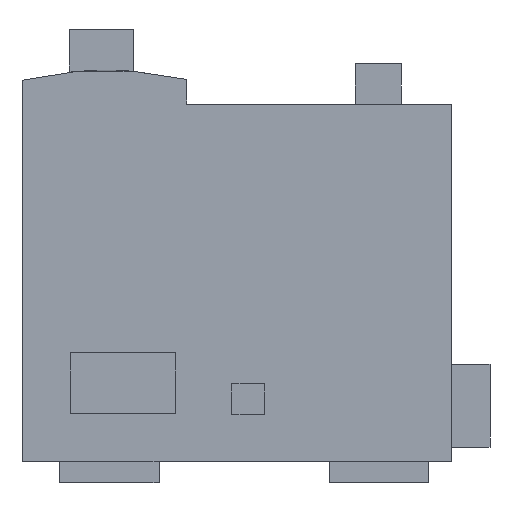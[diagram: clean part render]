
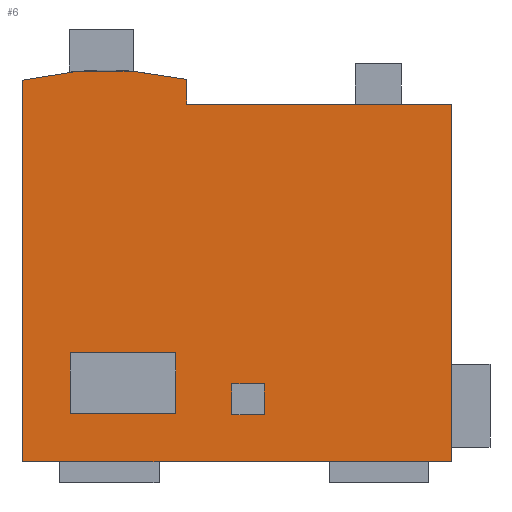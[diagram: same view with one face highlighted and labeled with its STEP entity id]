
A CAD part, front view. The second image highlights one B-rep face of the part: STEP entity #6.
In plain terms, the highlighted planar face has unit normal (0, -1, 0).
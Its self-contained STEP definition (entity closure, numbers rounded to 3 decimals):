
#6 = ADVANCED_FACE ( 'NONE', ( #666, #1373, #324 ), #817, .F. ) ;
#16 = VERTEX_POINT ( 'NONE', #1460 ) ;
#23 = DIRECTION ( 'NONE',  ( 0., 0., -1. ) ) ;
#54 = CARTESIAN_POINT ( 'NONE',  ( 0., 0., 0. ) ) ;
#63 = EDGE_CURVE ( 'NONE', #569, #1404, #1631, .T. ) ;
#75 = DIRECTION ( 'NONE',  ( 1., 0., 0. ) ) ;
#89 = DIRECTION ( 'NONE',  ( 0., 0., 1. ) ) ;
#95 = VERTEX_POINT ( 'NONE', #440 ) ;
#121 = EDGE_CURVE ( 'NONE', #1231, #1699, #685, .T. ) ;
#125 = CARTESIAN_POINT ( 'NONE',  ( 101.6, 0., 84.5 ) ) ;
#133 = EDGE_CURVE ( 'NONE', #267, #714, #1527, .T. ) ;
#135 = ORIENTED_EDGE ( 'NONE', *, *, #335, .T. ) ;
#142 = CARTESIAN_POINT ( 'NONE',  ( 0., 0., 84.5 ) ) ;
#159 = CARTESIAN_POINT ( 'NONE',  ( 0., 0., 0. ) ) ;
#181 = DIRECTION ( 'NONE',  ( 1., 0., 0. ) ) ;
#196 = CARTESIAN_POINT ( 'NONE',  ( 0., 0., 90.145 ) ) ;
#205 = VERTEX_POINT ( 'NONE', #241 ) ;
#210 = DIRECTION ( 'NONE',  ( 1., 0., 0. ) ) ;
#214 = EDGE_CURVE ( 'NONE', #1368, #612, #604, .T. ) ;
#221 = CARTESIAN_POINT ( 'NONE',  ( 0., 0., 0. ) ) ;
#239 = EDGE_LOOP ( 'NONE', ( #260, #720, #464, #1427 ) ) ;
#241 = CARTESIAN_POINT ( 'NONE',  ( 32.382, 0., 0. ) ) ;
#260 = ORIENTED_EDGE ( 'NONE', *, *, #1484, .F. ) ;
#267 = VERTEX_POINT ( 'NONE', #506 ) ;
#324 = FACE_BOUND ( 'NONE', #359, .T. ) ;
#327 = EDGE_CURVE ( 'NONE', #612, #1021, #786, .T. ) ;
#335 = EDGE_CURVE ( 'NONE', #1368, #770, #853, .T. ) ;
#359 = EDGE_LOOP ( 'NONE', ( #1391, #1258, #1516, #423 ) ) ;
#364 = EDGE_CURVE ( 'NONE', #880, #1693, #1463, .T. ) ;
#390 = DIRECTION ( 'NONE',  ( 0., 0., -1. ) ) ;
#423 = ORIENTED_EDGE ( 'NONE', *, *, #1464, .F. ) ;
#437 = VECTOR ( 'NONE', #1161, 1000. ) ;
#440 = CARTESIAN_POINT ( 'NONE',  ( 49.593, 0., 18.4 ) ) ;
#460 = DIRECTION ( 'NONE',  ( 0., 0., 1. ) ) ;
#464 = ORIENTED_EDGE ( 'NONE', *, *, #663, .F. ) ;
#495 = DIRECTION ( 'NONE',  ( 1., 0., 0. ) ) ;
#506 = CARTESIAN_POINT ( 'NONE',  ( 36.363, 0., 11.429 ) ) ;
#514 = VECTOR ( 'NONE', #390, 1000. ) ;
#527 = ORIENTED_EDGE ( 'NONE', *, *, #121, .T. ) ;
#532 = DIRECTION ( 'NONE',  ( 0., 0., -1. ) ) ;
#539 = EDGE_CURVE ( 'NONE', #205, #1231, #1420, .T. ) ;
#542 = DIRECTION ( 'NONE',  ( 0., 0., 1. ) ) ;
#549 = CARTESIAN_POINT ( 'NONE',  ( 57.299, 0., 11.1 ) ) ;
#558 = CARTESIAN_POINT ( 'NONE',  ( 11.393, 0., 25.704 ) ) ;
#569 = VERTEX_POINT ( 'NONE', #196 ) ;
#571 = VERTEX_POINT ( 'NONE', #1108 ) ;
#581 = CARTESIAN_POINT ( 'NONE',  ( 49.593, 0., 18.4 ) ) ;
#604 = LINE ( 'NONE', #1528, #437 ) ;
#612 = VERTEX_POINT ( 'NONE', #839 ) ;
#614 = CARTESIAN_POINT ( 'NONE',  ( 72.582, 0., 0. ) ) ;
#638 = LINE ( 'NONE', #221, #782 ) ;
#663 = EDGE_CURVE ( 'NONE', #1693, #1350, #1244, .T. ) ;
#664 = DIRECTION ( 'NONE',  ( 0., -1., 0. ) ) ;
#666 = FACE_BOUND ( 'NONE', #239, .T. ) ;
#669 = DIRECTION ( 'NONE',  ( 0., 0., -1. ) ) ;
#674 = DIRECTION ( 'NONE',  ( 1., 0., 0. ) ) ;
#685 = LINE ( 'NONE', #54, #1307 ) ;
#686 = AXIS2_PLACEMENT_3D ( 'NONE', #1218, #1212, #542 ) ;
#693 = EDGE_LOOP ( 'NONE', ( #1493, #135, #1189, #1291, #1185, #1000, #938, #527, #1615, #936 ) ) ;
#714 = VERTEX_POINT ( 'NONE', #1133 ) ;
#720 = ORIENTED_EDGE ( 'NONE', *, *, #1171, .F. ) ;
#740 = EDGE_CURVE ( 'NONE', #1404, #16, #1344, .T. ) ;
#756 = CARTESIAN_POINT ( 'NONE',  ( 38.951, 0., 84.5 ) ) ;
#758 = EDGE_CURVE ( 'NONE', #16, #205, #1544, .T. ) ;
#759 = DIRECTION ( 'NONE',  ( 1., 0., 0. ) ) ;
#760 = VECTOR ( 'NONE', #669, 1000. ) ;
#770 = VERTEX_POINT ( 'NONE', #1029 ) ;
#782 = VECTOR ( 'NONE', #759, 1000. ) ;
#786 = LINE ( 'NONE', #125, #514 ) ;
#817 = PLANE ( 'NONE',  #686 ) ;
#839 = CARTESIAN_POINT ( 'NONE',  ( 101.6, 0., 84.5 ) ) ;
#842 = VERTEX_POINT ( 'NONE', #1567 ) ;
#853 = LINE ( 'NONE', #756, #909 ) ;
#864 = CIRCLE ( 'NONE', #1008, 85. ) ;
#880 = VERTEX_POINT ( 'NONE', #1692 ) ;
#897 = CARTESIAN_POINT ( 'NONE',  ( 57.299, 0., 18.4 ) ) ;
#903 = LINE ( 'NONE', #1044, #1024 ) ;
#909 = VECTOR ( 'NONE', #1025, 1000. ) ;
#917 = CARTESIAN_POINT ( 'NONE',  ( 49.593, 0., 18.4 ) ) ;
#923 = DIRECTION ( 'NONE',  ( 1., 0., 0. ) ) ;
#933 = VECTOR ( 'NONE', #75, 1000. ) ;
#935 = VECTOR ( 'NONE', #23, 1000. ) ;
#936 = ORIENTED_EDGE ( 'NONE', *, *, #327, .F. ) ;
#938 = ORIENTED_EDGE ( 'NONE', *, *, #539, .T. ) ;
#951 = LINE ( 'NONE', #581, #1647 ) ;
#965 = EDGE_CURVE ( 'NONE', #714, #571, #1094, .T. ) ;
#988 = CARTESIAN_POINT ( 'NONE',  ( 0., 0., 0. ) ) ;
#996 = VECTOR ( 'NONE', #460, 1000. ) ;
#1000 = ORIENTED_EDGE ( 'NONE', *, *, #758, .T. ) ;
#1004 = CARTESIAN_POINT ( 'NONE',  ( 0., 0., 0. ) ) ;
#1008 = AXIS2_PLACEMENT_3D ( 'NONE', #1065, #664, #532 ) ;
#1021 = VERTEX_POINT ( 'NONE', #1354 ) ;
#1024 = VECTOR ( 'NONE', #1306, 1000. ) ;
#1025 = DIRECTION ( 'NONE',  ( 0., 0., 1. ) ) ;
#1029 = CARTESIAN_POINT ( 'NONE',  ( 38.951, 0., 90.331 ) ) ;
#1044 = CARTESIAN_POINT ( 'NONE',  ( 11.393, 0., 25.704 ) ) ;
#1065 = CARTESIAN_POINT ( 'NONE',  ( 19.87, 0., 7.5 ) ) ;
#1074 = VECTOR ( 'NONE', #674, 1000. ) ;
#1094 = LINE ( 'NONE', #558, #1459 ) ;
#1108 = CARTESIAN_POINT ( 'NONE',  ( 11.393, 0., 25.704 ) ) ;
#1131 = CARTESIAN_POINT ( 'NONE',  ( 57.299, 0., 18.4 ) ) ;
#1133 = CARTESIAN_POINT ( 'NONE',  ( 36.363, 0., 25.704 ) ) ;
#1161 = DIRECTION ( 'NONE',  ( 1., 0., 0. ) ) ;
#1171 = EDGE_CURVE ( 'NONE', #1350, #95, #951, .T. ) ;
#1177 = VECTOR ( 'NONE', #923, 1000. ) ;
#1185 = ORIENTED_EDGE ( 'NONE', *, *, #740, .T. ) ;
#1189 = ORIENTED_EDGE ( 'NONE', *, *, #1500, .T. ) ;
#1212 = DIRECTION ( 'NONE',  ( 0., 1., 0. ) ) ;
#1218 = CARTESIAN_POINT ( 'NONE',  ( 0., 0., 84.5 ) ) ;
#1220 = VECTOR ( 'NONE', #210, 1000. ) ;
#1231 = VERTEX_POINT ( 'NONE', #614 ) ;
#1244 = LINE ( 'NONE', #1131, #1380 ) ;
#1258 = ORIENTED_EDGE ( 'NONE', *, *, #965, .F. ) ;
#1287 = CARTESIAN_POINT ( 'NONE',  ( 11.393, 0., 11.429 ) ) ;
#1291 = ORIENTED_EDGE ( 'NONE', *, *, #63, .T. ) ;
#1306 = DIRECTION ( 'NONE',  ( 0., 0., -1. ) ) ;
#1307 = VECTOR ( 'NONE', #181, 1000. ) ;
#1327 = EDGE_CURVE ( 'NONE', #1699, #1021, #638, .T. ) ;
#1344 = LINE ( 'NONE', #1004, #933 ) ;
#1350 = VERTEX_POINT ( 'NONE', #897 ) ;
#1354 = CARTESIAN_POINT ( 'NONE',  ( 101.6, 0., 0. ) ) ;
#1359 = LINE ( 'NONE', #917, #760 ) ;
#1360 = CARTESIAN_POINT ( 'NONE',  ( 96., 0., 0. ) ) ;
#1368 = VERTEX_POINT ( 'NONE', #1419 ) ;
#1373 = FACE_OUTER_BOUND ( 'NONE', #693, .T. ) ;
#1380 = VECTOR ( 'NONE', #89, 1000. ) ;
#1391 = ORIENTED_EDGE ( 'NONE', *, *, #1454, .F. ) ;
#1404 = VERTEX_POINT ( 'NONE', #1434 ) ;
#1419 = CARTESIAN_POINT ( 'NONE',  ( 38.951, 0., 84.5 ) ) ;
#1420 = LINE ( 'NONE', #159, #1074 ) ;
#1427 = ORIENTED_EDGE ( 'NONE', *, *, #364, .F. ) ;
#1434 = CARTESIAN_POINT ( 'NONE',  ( 0., 0., 0. ) ) ;
#1454 = EDGE_CURVE ( 'NONE', #571, #842, #903, .T. ) ;
#1459 = VECTOR ( 'NONE', #1604, 1000. ) ;
#1460 = CARTESIAN_POINT ( 'NONE',  ( 8.882, 0., 0. ) ) ;
#1463 = LINE ( 'NONE', #1570, #1177 ) ;
#1464 = EDGE_CURVE ( 'NONE', #842, #267, #1645, .T. ) ;
#1484 = EDGE_CURVE ( 'NONE', #95, #880, #1359, .T. ) ;
#1493 = ORIENTED_EDGE ( 'NONE', *, *, #214, .F. ) ;
#1499 = CARTESIAN_POINT ( 'NONE',  ( 36.363, 0., 25.704 ) ) ;
#1500 = EDGE_CURVE ( 'NONE', #770, #569, #864, .T. ) ;
#1504 = DIRECTION ( 'NONE',  ( -1., 0., 0. ) ) ;
#1516 = ORIENTED_EDGE ( 'NONE', *, *, #133, .F. ) ;
#1527 = LINE ( 'NONE', #1499, #996 ) ;
#1528 = CARTESIAN_POINT ( 'NONE',  ( 0., 0., 84.5 ) ) ;
#1544 = LINE ( 'NONE', #988, #1220 ) ;
#1557 = VECTOR ( 'NONE', #495, 1000. ) ;
#1567 = CARTESIAN_POINT ( 'NONE',  ( 11.393, 0., 11.429 ) ) ;
#1570 = CARTESIAN_POINT ( 'NONE',  ( 49.593, 0., 11.1 ) ) ;
#1604 = DIRECTION ( 'NONE',  ( -1., 0., 0. ) ) ;
#1615 = ORIENTED_EDGE ( 'NONE', *, *, #1327, .T. ) ;
#1631 = LINE ( 'NONE', #142, #935 ) ;
#1645 = LINE ( 'NONE', #1287, #1557 ) ;
#1647 = VECTOR ( 'NONE', #1504, 1000. ) ;
#1692 = CARTESIAN_POINT ( 'NONE',  ( 49.593, 0., 11.1 ) ) ;
#1693 = VERTEX_POINT ( 'NONE', #549 ) ;
#1699 = VERTEX_POINT ( 'NONE', #1360 ) ;
